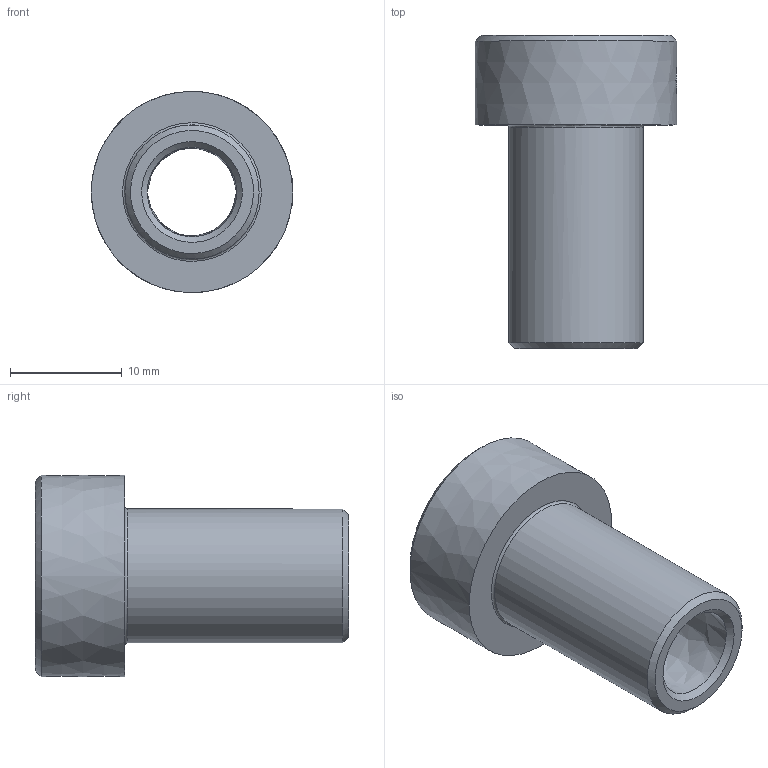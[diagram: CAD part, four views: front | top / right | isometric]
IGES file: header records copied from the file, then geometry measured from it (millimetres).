
Global section: file name: 03.66 A; native system: Autodesk Inventor 2014; preprocessor: unknown; author: APto; date: 20150401.111850; units: millimetre
Bounding box: 18 x 28 x 18 mm (x, y, z)
Volume: 2880.8 mm3; surface area: 2366.5 mm2
Topology: 2 solids, 2 shells, 24 faces, 62 edges, 43 vertices
Faces by surface type: bspline 24
